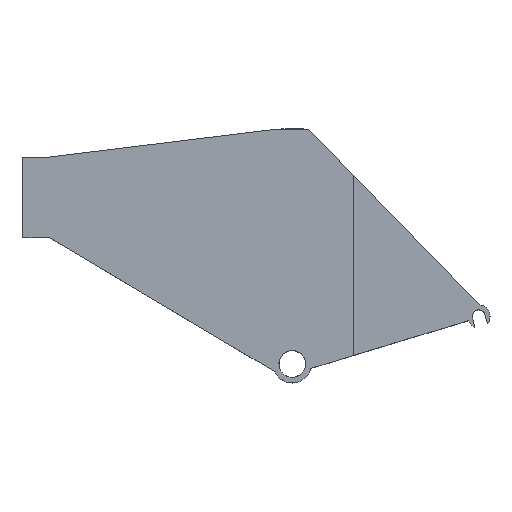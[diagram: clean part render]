
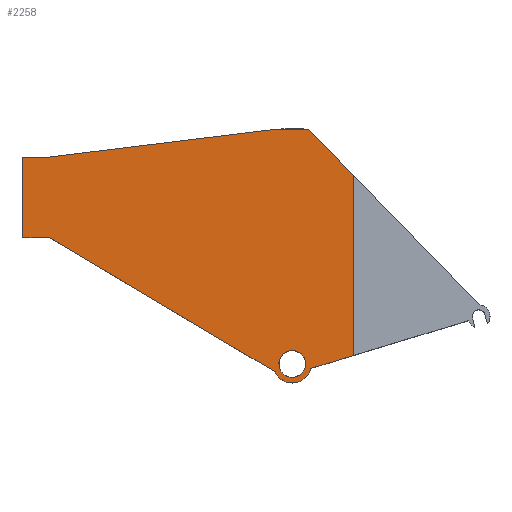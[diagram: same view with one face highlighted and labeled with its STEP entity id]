
A CAD part, top view. The second image highlights one B-rep face of the part: STEP entity #2258.
In plain terms, the highlighted planar face has unit normal (0, 0, 1).
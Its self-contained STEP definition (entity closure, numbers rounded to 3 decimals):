
#58 = ORIENTED_EDGE ( 'NONE', *, *, #142, .F. ) ;
#101 = ORIENTED_EDGE ( 'NONE', *, *, #962, .T. ) ;
#142 = EDGE_CURVE ( 'NONE', #2113, #585, #457, .T. ) ;
#145 = CARTESIAN_POINT ( 'NONE',  ( 48.671, 1., 60. ) ) ;
#147 = DIRECTION ( 'NONE',  ( 0., 0., 1. ) ) ;
#177 = VERTEX_POINT ( 'NONE', #1202 ) ;
#189 = LINE ( 'NONE', #2831, #719 ) ;
#200 = ORIENTED_EDGE ( 'NONE', *, *, #1158, .F. ) ;
#217 = EDGE_CURVE ( 'NONE', #1108, #2730, #849, .T. ) ;
#328 = VERTEX_POINT ( 'NONE', #2965 ) ;
#342 = VECTOR ( 'NONE', #1013, 1000. ) ;
#349 = LINE ( 'NONE', #145, #990 ) ;
#355 = EDGE_CURVE ( 'NONE', #2328, #669, #349, .T. ) ;
#359 = DIRECTION ( 'NONE',  ( 1., 0., 0. ) ) ;
#371 = CARTESIAN_POINT ( 'NONE',  ( 989.398, 193.697, 60. ) ) ;
#376 = CIRCLE ( 'NONE', #2903, 41.5 ) ;
#408 = CARTESIAN_POINT ( 'NONE',  ( 800., -390., 60. ) ) ;
#411 = DIRECTION ( 'NONE',  ( 0., 0., -1. ) ) ;
#427 = ORIENTED_EDGE ( 'NONE', *, *, #1397, .F. ) ;
#457 = LINE ( 'NONE', #1832, #1255 ) ;
#469 = EDGE_CURVE ( 'NONE', #669, #1108, #2688, .T. ) ;
#502 = AXIS2_PLACEMENT_3D ( 'NONE', #1325, #678, #2118 ) ;
#505 = ORIENTED_EDGE ( 'NONE', *, *, #1825, .F. ) ;
#522 = CIRCLE ( 'NONE', #1920, 41.5 ) ;
#558 = CARTESIAN_POINT ( 'NONE',  ( 748.383, 336., 60. ) ) ;
#585 = VERTEX_POINT ( 'NONE', #1901 ) ;
#669 = VERTEX_POINT ( 'NONE', #1246 ) ;
#678 = DIRECTION ( 'NONE',  ( 0., 0., -1. ) ) ;
#679 = EDGE_CURVE ( 'NONE', #1043, #328, #1930, .T. ) ;
#691 = VECTOR ( 'NONE', #2304, 1000. ) ;
#719 = VECTOR ( 'NONE', #1481, 1000. ) ;
#723 = LINE ( 'NONE', #1579, #764 ) ;
#751 = CARTESIAN_POINT ( 'NONE',  ( 1385.917, -215.587, 60. ) ) ;
#764 = VECTOR ( 'NONE', #1848, 1000. ) ;
#813 = CARTESIAN_POINT ( 'NONE',  ( 752.884, -412.061, 60. ) ) ;
#816 = ORIENTED_EDGE ( 'NONE', *, *, #469, .F. ) ;
#826 = ORIENTED_EDGE ( 'NONE', *, *, #355, .F. ) ;
#849 = LINE ( 'NONE', #2601, #1639 ) ;
#865 = ORIENTED_EDGE ( 'NONE', *, *, #679, .F. ) ;
#902 = DIRECTION ( 'NONE',  ( 1., 0., 0. ) ) ;
#962 = EDGE_CURVE ( 'NONE', #2113, #2739, #723, .T. ) ;
#978 = AXIS2_PLACEMENT_3D ( 'NONE', #408, #147, #902 ) ;
#990 = VECTOR ( 'NONE', #2745, 1000. ) ;
#1013 = DIRECTION ( 'NONE',  ( 0.993, 0.122, 0. ) ) ;
#1018 = VECTOR ( 'NONE', #359, 1000. ) ;
#1043 = VERTEX_POINT ( 'NONE', #1710 ) ;
#1071 = CARTESIAN_POINT ( 'NONE',  ( 841.5, -390., 60. ) ) ;
#1081 = ORIENTED_EDGE ( 'NONE', *, *, #2878, .T. ) ;
#1092 = FACE_OUTER_BOUND ( 'NONE', #2484, .T. ) ;
#1094 = LINE ( 'NONE', #1233, #342 ) ;
#1108 = VERTEX_POINT ( 'NONE', #2462 ) ;
#1142 = EDGE_LOOP ( 'NONE', ( #1574, #1906, #1081, #865 ) ) ;
#1158 = EDGE_CURVE ( 'NONE', #2730, #177, #2318, .T. ) ;
#1202 = CARTESIAN_POINT ( 'NONE',  ( 38.336, 249., 60. ) ) ;
#1206 = LINE ( 'NONE', #751, #1711 ) ;
#1216 = DIRECTION ( 'NONE',  ( -0.01, 1., 0. ) ) ;
#1233 = CARTESIAN_POINT ( 'NONE',  ( 748.383, 336., 60. ) ) ;
#1246 = CARTESIAN_POINT ( 'NONE',  ( 48.671, 1., 60. ) ) ;
#1255 = VECTOR ( 'NONE', #1822, 1000. ) ;
#1274 = DIRECTION ( 'NONE',  ( 1., 0., 0. ) ) ;
#1305 = CARTESIAN_POINT ( 'NONE',  ( 989.398, -363.818, 60. ) ) ;
#1325 = CARTESIAN_POINT ( 'NONE',  ( 800., -390., 60. ) ) ;
#1397 = EDGE_CURVE ( 'NONE', #2644, #2221, #189, .T. ) ;
#1426 = EDGE_CURVE ( 'NONE', #177, #2644, #1094, .T. ) ;
#1475 = DIRECTION ( 'NONE',  ( 0., 0., 1. ) ) ;
#1481 = DIRECTION ( 'NONE',  ( 1., 0., 0. ) ) ;
#1572 = DIRECTION ( 'NONE',  ( 1., 0., 0. ) ) ;
#1574 = ORIENTED_EDGE ( 'NONE', *, *, #1780, .T. ) ;
#1575 = PLANE ( 'NONE',  #978 ) ;
#1579 = CARTESIAN_POINT ( 'NONE',  ( 989.398, -390., 60. ) ) ;
#1626 = EDGE_CURVE ( 'NONE', #2198, #1869, #376, .T. ) ;
#1639 = VECTOR ( 'NONE', #1216, 1000. ) ;
#1710 = CARTESIAN_POINT ( 'NONE',  ( 760.167, -378.356, 60. ) ) ;
#1711 = VECTOR ( 'NONE', #2383, 1000. ) ;
#1727 = DIRECTION ( 'NONE',  ( -0.211, -0.977, 0. ) ) ;
#1780 = EDGE_CURVE ( 'NONE', #1043, #2198, #2494, .T. ) ;
#1799 = CARTESIAN_POINT ( 'NONE',  ( -36.162, 249., 60. ) ) ;
#1801 = ORIENTED_EDGE ( 'NONE', *, *, #1998, .T. ) ;
#1815 = CARTESIAN_POINT ( 'NONE',  ( 800., -390., 60. ) ) ;
#1821 = CIRCLE ( 'NONE', #2993, 58.726 ) ;
#1822 = DIRECTION ( 'NONE',  ( -0.957, -0.29, 0. ) ) ;
#1825 = EDGE_CURVE ( 'NONE', #2221, #2739, #1206, .T. ) ;
#1832 = CARTESIAN_POINT ( 'NONE',  ( 851.533, -405.647, 60. ) ) ;
#1848 = DIRECTION ( 'NONE',  ( 0., 1., 0. ) ) ;
#1869 = VERTEX_POINT ( 'NONE', #2821 ) ;
#1901 = CARTESIAN_POINT ( 'NONE',  ( 857.038, -403.977, 60. ) ) ;
#1906 = ORIENTED_EDGE ( 'NONE', *, *, #1626, .T. ) ;
#1920 = AXIS2_PLACEMENT_3D ( 'NONE', #1815, #411, #2052 ) ;
#1930 = LINE ( 'NONE', #813, #2357 ) ;
#1936 = ORIENTED_EDGE ( 'NONE', *, *, #1426, .F. ) ;
#1943 = CARTESIAN_POINT ( 'NONE',  ( 800., -390., 60. ) ) ;
#1998 = EDGE_CURVE ( 'NONE', #2328, #585, #1821, .T. ) ;
#2030 = DIRECTION ( 'NONE',  ( 0., 0., -1. ) ) ;
#2035 = CARTESIAN_POINT ( 'NONE',  ( 38.336, 249., 60. ) ) ;
#2052 = DIRECTION ( 'NONE',  ( 1., 0., 0. ) ) ;
#2113 = VERTEX_POINT ( 'NONE', #1305 ) ;
#2118 = DIRECTION ( 'NONE',  ( 1., 0., 0. ) ) ;
#2198 = VERTEX_POINT ( 'NONE', #1071 ) ;
#2221 = VERTEX_POINT ( 'NONE', #2924 ) ;
#2258 = ADVANCED_FACE ( 'NONE', ( #3008, #1092 ), #1575, .T. ) ;
#2304 = DIRECTION ( 'NONE',  ( -1., 0., 0. ) ) ;
#2318 = LINE ( 'NONE', #2035, #1018 ) ;
#2328 = VERTEX_POINT ( 'NONE', #2747 ) ;
#2342 = ORIENTED_EDGE ( 'NONE', *, *, #217, .F. ) ;
#2357 = VECTOR ( 'NONE', #1727, 1000. ) ;
#2383 = DIRECTION ( 'NONE',  ( 0.696, -0.718, 0. ) ) ;
#2462 = CARTESIAN_POINT ( 'NONE',  ( -33.634, 1., 60. ) ) ;
#2479 = CARTESIAN_POINT ( 'NONE',  ( 800., -390., 60. ) ) ;
#2484 = EDGE_LOOP ( 'NONE', ( #58, #101, #505, #427, #1936, #200, #2342, #816, #826, #1801 ) ) ;
#2494 = CIRCLE ( 'NONE', #502, 41.5 ) ;
#2601 = CARTESIAN_POINT ( 'NONE',  ( -36.162, 249., 60. ) ) ;
#2644 = VERTEX_POINT ( 'NONE', #558 ) ;
#2688 = LINE ( 'NONE', #2786, #691 ) ;
#2730 = VERTEX_POINT ( 'NONE', #1799 ) ;
#2739 = VERTEX_POINT ( 'NONE', #371 ) ;
#2745 = DIRECTION ( 'NONE',  ( -0.859, 0.511, 0. ) ) ;
#2747 = CARTESIAN_POINT ( 'NONE',  ( 746.577, -414.385, 60. ) ) ;
#2786 = CARTESIAN_POINT ( 'NONE',  ( -33.634, 1., 60. ) ) ;
#2821 = CARTESIAN_POINT ( 'NONE',  ( 758.5, -390., 60. ) ) ;
#2831 = CARTESIAN_POINT ( 'NONE',  ( 851.533, 336., 60. ) ) ;
#2878 = EDGE_CURVE ( 'NONE', #1869, #328, #522, .T. ) ;
#2903 = AXIS2_PLACEMENT_3D ( 'NONE', #2479, #2030, #1572 ) ;
#2924 = CARTESIAN_POINT ( 'NONE',  ( 851.533, 336., 60. ) ) ;
#2965 = CARTESIAN_POINT ( 'NONE',  ( 758.913, -384.159, 60. ) ) ;
#2993 = AXIS2_PLACEMENT_3D ( 'NONE', #1943, #1475, #1274 ) ;
#3008 = FACE_BOUND ( 'NONE', #1142, .T. ) ;
